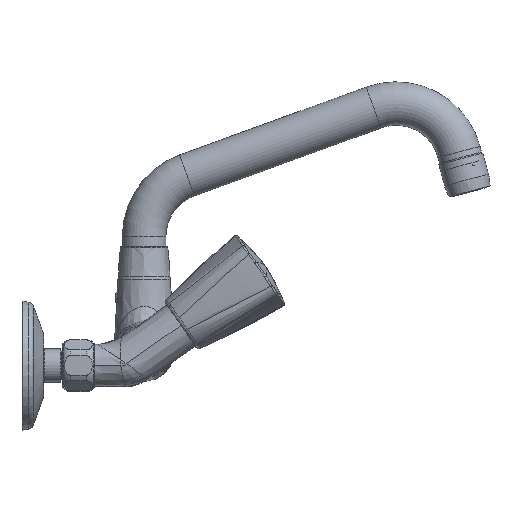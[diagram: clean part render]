
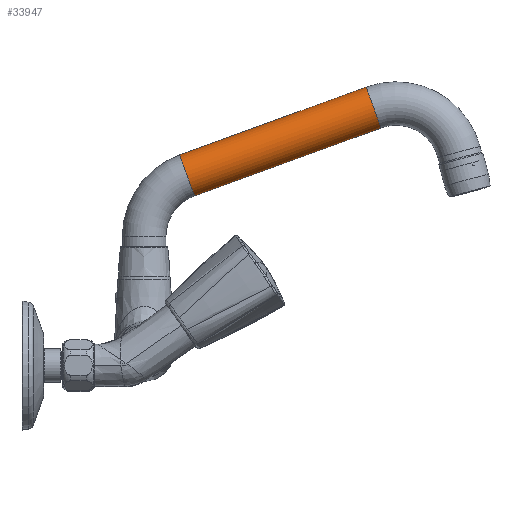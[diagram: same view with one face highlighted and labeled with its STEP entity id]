
A CAD part, top view. The second image highlights one B-rep face of the part: STEP entity #33947.
In plain terms, the highlighted cylindrical face has radius 11 mm (diameter 22 mm), a partial arc.
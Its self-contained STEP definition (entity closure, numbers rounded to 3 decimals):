
#33609=CARTESIAN_POINT('',(21.713,49.01,0.));
#33610=DIRECTION('',(0.94,0.342,0.));
#33611=DIRECTION('',(-0.342,0.94,0.));
#33612=AXIS2_PLACEMENT_3D('',#33609,#33610,#33611);
#33614=DIRECTION('',(0.94,0.342,0.));
#33615=VECTOR('',#33614,100.4);
#33616=CARTESIAN_POINT('',(17.951,59.346,0.));
#33617=LINE('',#33616,#33615);
#33623=DIRECTION('',(0.94,0.342,0.));
#33624=VECTOR('',#33623,100.4);
#33625=CARTESIAN_POINT('',(25.476,38.673,0.));
#33626=LINE('',#33625,#33624);
#33637=CARTESIAN_POINT('',(116.058,83.349,0.));
#33638=DIRECTION('',(0.94,0.342,0.));
#33639=DIRECTION('',(-0.342,0.94,0.));
#33640=AXIS2_PLACEMENT_3D('',#33637,#33638,#33639);
#33825=CARTESIAN_POINT('',(17.951,59.346,0.));
#33826=CARTESIAN_POINT('',(25.476,38.673,0.));
#33827=VERTEX_POINT('',#33825);
#33828=VERTEX_POINT('',#33826);
#33833=CARTESIAN_POINT('',(112.296,93.685,0.));
#33834=CARTESIAN_POINT('',(119.821,73.012,0.));
#33835=VERTEX_POINT('',#33833);
#33836=VERTEX_POINT('',#33834);
#33933=CARTESIAN_POINT('',(21.713,49.01,0.));
#33934=DIRECTION('',(0.94,0.342,0.));
#33935=DIRECTION('',(-0.342,0.94,0.));
#33936=AXIS2_PLACEMENT_3D('',#33933,#33934,#33935);
#33937=CYLINDRICAL_SURFACE('',#33936,11.);
#33938=ORIENTED_EDGE('',*,*,#33927,.F.);
#33940=ORIENTED_EDGE('',*,*,#33939,.T.);
#33942=ORIENTED_EDGE('',*,*,#33941,.T.);
#33944=ORIENTED_EDGE('',*,*,#33943,.F.);
#33945=EDGE_LOOP('',(#33938,#33940,#33942,#33944));
#33946=FACE_OUTER_BOUND('',#33945,.F.);
#33947=ADVANCED_FACE('',(#33946),#33937,.T.);
#33613=CIRCLE('',#33612,11.);
#33641=CIRCLE('',#33640,11.);
#33927=EDGE_CURVE('',#33827,#33828,#33613,.T.);
#33939=EDGE_CURVE('',#33827,#33835,#33617,.T.);
#33941=EDGE_CURVE('',#33835,#33836,#33641,.T.);
#33943=EDGE_CURVE('',#33828,#33836,#33626,.T.);
